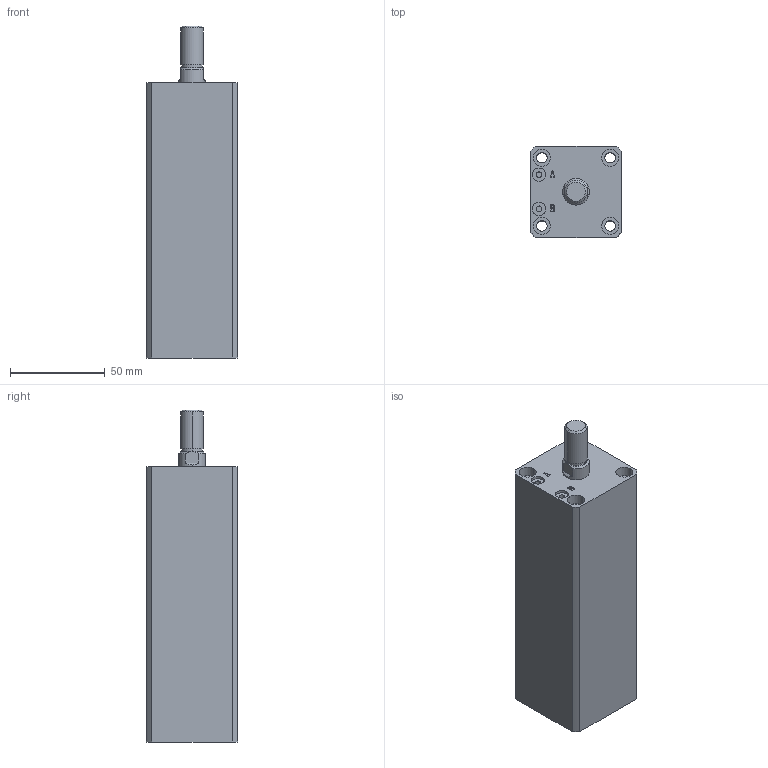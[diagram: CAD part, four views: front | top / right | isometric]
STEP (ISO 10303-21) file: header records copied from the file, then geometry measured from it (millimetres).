
FILE_DESCRIPTION (( 'STEP AP203' ), '1' );
FILE_NAME ('HTB-SDMA25-100W.STEP', '2019-10-07T11:18:22', ( '微软用户' ), ( '微软中国' ), 'SwSTEP 2.0', 'SolidWorks 2012', '' );
FILE_SCHEMA (( 'CONFIG_CONTROL_DESIGN' ));
Length unit declared in the file: millimetre
Products named in the file (3): HTB-SDMA25-100W; HTB-SDMA25-100W活塞杆; HTB-SDMA25-100掛极
Assembly tree (2 placements, depth 2):
  HTB-SDMA25-100W
    HTB-SDMA25-100掛极
    HTB-SDMA25-100W活塞杆
Bounding box: 48 x 48 x 175 mm (x, y, z)
Volume: 285461.7 mm3; surface area: 61581 mm2
Topology: 2 solids, 2 shells, 141 faces, 335 edges, 220 vertices
Faces by surface type: plane 67, cylinder 48, bspline 16, torus 6, cone 4
Entity records: 5178 total; most frequent: CARTESIAN_POINT 1609, ORIENTED_EDGE 670, DIRECTION 667, EDGE_CURVE 335, AXIS2_PLACEMENT_3D 242, VERTEX_POINT 220, LINE 183, VECTOR 183
